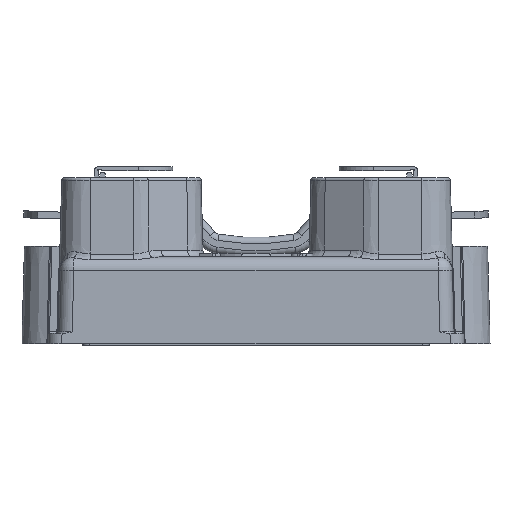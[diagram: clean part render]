
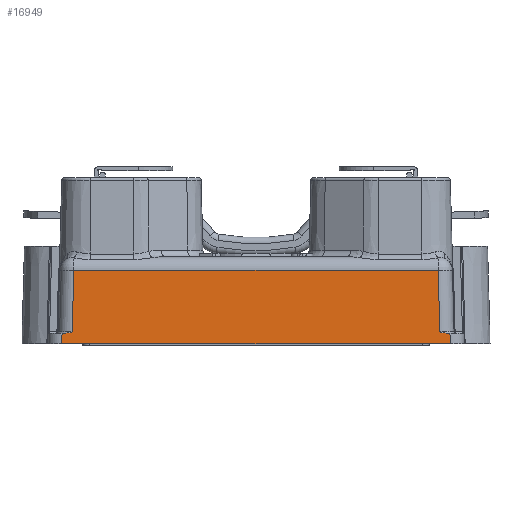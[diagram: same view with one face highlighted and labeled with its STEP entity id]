
A CAD part, left-side view. The second image highlights one B-rep face of the part: STEP entity #16949.
In plain terms, the highlighted planar face has unit normal (-1, 0, 0.026) as drawn and (0, 1, 0.026) by its records, which use the part's own axes.
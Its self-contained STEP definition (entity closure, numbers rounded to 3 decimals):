
#258=B_SPLINE_CURVE_WITH_KNOTS('',3,(#28078,#28079,#28080,#28081),
 .UNSPECIFIED.,.F.,.F.,(4,4),(0.,0.001),.UNSPECIFIED.);
#259=B_SPLINE_CURVE_WITH_KNOTS('',3,(#28086,#28087,#28088,#28089),
 .UNSPECIFIED.,.F.,.F.,(4,4),(0.,0.001),.UNSPECIFIED.);
#3945=ORIENTED_EDGE('',*,*,#8310,.F.);
#3946=ORIENTED_EDGE('',*,*,#8355,.T.);
#3947=ORIENTED_EDGE('',*,*,#8356,.F.);
#3948=ORIENTED_EDGE('',*,*,#8357,.F.);
#3949=ORIENTED_EDGE('',*,*,#8358,.T.);
#3950=ORIENTED_EDGE('',*,*,#8359,.T.);
#3951=ORIENTED_EDGE('',*,*,#8360,.F.);
#3952=ORIENTED_EDGE('',*,*,#8296,.T.);
#3953=ORIENTED_EDGE('',*,*,#8361,.T.);
#3954=ORIENTED_EDGE('',*,*,#8362,.T.);
#8296=EDGE_CURVE('',#10580,#10589,#11989,.F.);
#8310=EDGE_CURVE('',#10603,#10604,#11997,.F.);
#8355=EDGE_CURVE('',#10603,#10642,#12022,.T.);
#8356=EDGE_CURVE('',#10643,#10642,#12023,.F.);
#8357=EDGE_CURVE('',#10644,#10643,#12024,.T.);
#8358=EDGE_CURVE('',#10644,#10645,#12025,.F.);
#8359=EDGE_CURVE('',#10645,#10646,#258,.T.);
#8360=EDGE_CURVE('',#10580,#10646,#12026,.T.);
#8361=EDGE_CURVE('',#10589,#10647,#12027,.T.);
#8362=EDGE_CURVE('',#10647,#10604,#259,.F.);
#10580=VERTEX_POINT('',#27866);
#10589=VERTEX_POINT('',#27896);
#10603=VERTEX_POINT('',#27951);
#10604=VERTEX_POINT('',#27952);
#10642=VERTEX_POINT('',#28071);
#10643=VERTEX_POINT('',#28073);
#10644=VERTEX_POINT('',#28075);
#10645=VERTEX_POINT('',#28077);
#10646=VERTEX_POINT('',#28082);
#10647=VERTEX_POINT('',#28085);
#11989=LINE('',#27897,#13232);
#11997=LINE('',#27950,#13240);
#12022=LINE('',#28070,#13265);
#12023=LINE('',#28072,#13266);
#12024=LINE('',#28074,#13267);
#12025=LINE('',#28076,#13268);
#12026=LINE('',#28083,#13269);
#12027=LINE('',#28084,#13270);
#13232=VECTOR('',#22071,1000.);
#13240=VECTOR('',#22091,1000.);
#13265=VECTOR('',#22148,1000.);
#13266=VECTOR('',#22149,1000.);
#13267=VECTOR('',#22150,1000.);
#13268=VECTOR('',#22151,1000.);
#13269=VECTOR('',#22152,1000.);
#13270=VECTOR('',#22153,1000.);
#14348=EDGE_LOOP('',(#3945,#3946,#3947,#3948,#3949,#3950,#3951,#3952,#3953,
#3954));
#15487=FACE_BOUND('',#14348,.T.);
#16386=PLANE('',#18742);
#16949=ADVANCED_FACE('',(#15487),#16386,.T.);
#18742=AXIS2_PLACEMENT_3D('',#28069,#22146,#22147);
#22071=DIRECTION('',(-1.,0.,0.));
#22091=DIRECTION('',(1.,0.,0.));
#22146=DIRECTION('',(0.,1.,0.026));
#22147=DIRECTION('',(0.,-0.026,1.));
#22148=DIRECTION('',(0.026,0.026,-0.999));
#22149=DIRECTION('',(-1.,0.,0.));
#22150=DIRECTION('',(-0.026,0.026,-0.999));
#22151=DIRECTION('',(-1.,0.,0.));
#22152=DIRECTION('',(-0.026,0.026,-0.999));
#22153=DIRECTION('',(0.026,0.026,-0.999));
#27866=CARTESIAN_POINT('',(-26.264,29.724,10.552));
#27896=CARTESIAN_POINT('',(26.264,29.724,10.552));
#27897=CARTESIAN_POINT('',(15.,29.724,10.552));
#27950=CARTESIAN_POINT('',(30.,29.961,1.5));
#27951=CARTESIAN_POINT('',(27.961,29.961,1.5));
#27952=CARTESIAN_POINT('',(27.401,29.961,1.5));
#28069=CARTESIAN_POINT('',(15.,30.,0.));
#28070=CARTESIAN_POINT('',(27.992,29.991,0.34));
#28071=CARTESIAN_POINT('',(28.001,30.,0.));
#28072=CARTESIAN_POINT('',(0.,30.,0.));
#28073=CARTESIAN_POINT('',(-28.001,30.,0.));
#28074=CARTESIAN_POINT('',(-27.992,29.991,0.34));
#28075=CARTESIAN_POINT('',(-27.961,29.961,1.5));
#28076=CARTESIAN_POINT('',(-30.,29.961,1.5));
#28077=CARTESIAN_POINT('',(-27.401,29.961,1.5));
#28078=CARTESIAN_POINT('',(-27.401,29.961,1.5));
#28079=CARTESIAN_POINT('',(-27.089,29.961,1.5));
#28080=CARTESIAN_POINT('',(-26.79,29.958,1.602));
#28081=CARTESIAN_POINT('',(-26.496,29.956,1.695));
#28082=CARTESIAN_POINT('',(-26.496,29.956,1.695));
#28083=CARTESIAN_POINT('',(-26.532,29.992,0.302));
#28084=CARTESIAN_POINT('',(26.532,29.992,0.302));
#28085=CARTESIAN_POINT('',(26.496,29.956,1.695));
#28086=CARTESIAN_POINT('',(27.401,29.961,1.5));
#28087=CARTESIAN_POINT('',(27.089,29.961,1.5));
#28088=CARTESIAN_POINT('',(26.79,29.958,1.602));
#28089=CARTESIAN_POINT('',(26.496,29.956,1.695));
